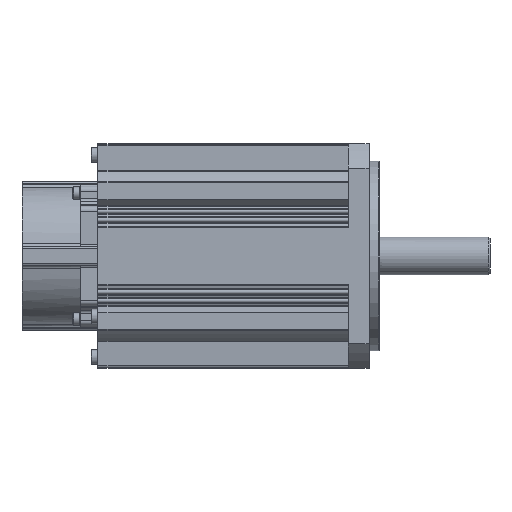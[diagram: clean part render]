
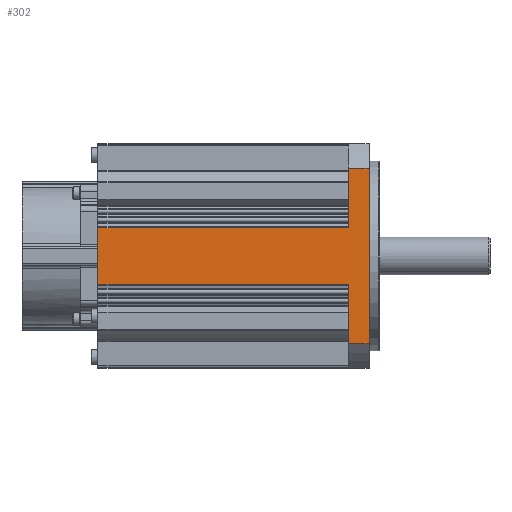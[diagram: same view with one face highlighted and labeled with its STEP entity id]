
A CAD part, front view. The second image highlights one B-rep face of the part: STEP entity #302.
In plain terms, the highlighted planar face has unit normal (0, -1, 0).
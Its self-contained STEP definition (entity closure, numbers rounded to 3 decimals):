
#302 = ADVANCED_FACE( '', ( #1106 ), #1107, .T. );
#1106 = FACE_OUTER_BOUND( '', #2325, .T. );
#1107 = PLANE( '', #2326 );
#2325 = EDGE_LOOP( '', ( #5103, #5104, #5105, #5106, #5107, #5108, #5109, #5110 ) );
#2326 = AXIS2_PLACEMENT_3D( '', #5111, #5112, #5113 );
#5103 = ORIENTED_EDGE( '', *, *, #7926, .F. );
#5104 = ORIENTED_EDGE( '', *, *, #8179, .T. );
#5105 = ORIENTED_EDGE( '', *, *, #8180, .F. );
#5106 = ORIENTED_EDGE( '', *, *, #8181, .F. );
#5107 = ORIENTED_EDGE( '', *, *, #7590, .F. );
#5108 = ORIENTED_EDGE( '', *, *, #7598, .T. );
#5109 = ORIENTED_EDGE( '', *, *, #8072, .T. );
#5110 = ORIENTED_EDGE( '', *, *, #7596, .F. );
#5111 = CARTESIAN_POINT( '', ( -157., -65., 50.806 ) );
#5112 = DIRECTION( '', ( 0., -1., 0. ) );
#5113 = DIRECTION( '', ( 0., 0., -1. ) );
#7590 = EDGE_CURVE( '', #9104, #9106, #9107, .T. );
#7596 = EDGE_CURVE( '', #9116, #9111, #9118, .T. );
#7598 = EDGE_CURVE( '', #9104, #9120, #9122, .T. );
#7926 = EDGE_CURVE( '', #9676, #9116, #9677, .T. );
#8072 = EDGE_CURVE( '', #9120, #9111, #9896, .T. );
#8179 = EDGE_CURVE( '', #9676, #10105, #10107, .T. );
#8180 = EDGE_CURVE( '', #10108, #10105, #10109, .T. );
#8181 = EDGE_CURVE( '', #9106, #10108, #10110, .T. );
#9104 = VERTEX_POINT( '', #11753 );
#9106 = VERTEX_POINT( '', #11755 );
#9107 = LINE( '', #11756, #11757 );
#9111 = VERTEX_POINT( '', #11761 );
#9116 = VERTEX_POINT( '', #11767 );
#9118 = LINE( '', #11769, #11770 );
#9120 = VERTEX_POINT( '', #11772 );
#9122 = LINE( '', #11774, #11775 );
#9676 = VERTEX_POINT( '', #12513 );
#9677 = LINE( '', #12514, #12515 );
#9896 = LINE( '', #12831, #12832 );
#10105 = VERTEX_POINT( '', #13100 );
#10107 = LINE( '', #13102, #13103 );
#10108 = VERTEX_POINT( '', #13104 );
#10109 = LINE( '', #13105, #13106 );
#10110 = LINE( '', #13107, #13108 );
#11753 = CARTESIAN_POINT( '', ( -12., -65., 16.424 ) );
#11755 = CARTESIAN_POINT( '', ( -12., -65., 50.806 ) );
#11756 = CARTESIAN_POINT( '', ( -12., -65., 50.806 ) );
#11757 = VECTOR( '', #14738, 1000. );
#11761 = CARTESIAN_POINT( '', ( -157., -65., -16.424 ) );
#11767 = CARTESIAN_POINT( '', ( -12., -65., -16.424 ) );
#11769 = CARTESIAN_POINT( '', ( -12., -65., -16.424 ) );
#11770 = VECTOR( '', #14752, 1000. );
#11772 = CARTESIAN_POINT( '', ( -157., -65., 16.424 ) );
#11774 = CARTESIAN_POINT( '', ( -12., -65., 16.424 ) );
#11775 = VECTOR( '', #14756, 1000. );
#12513 = CARTESIAN_POINT( '', ( -12., -65., -50.806 ) );
#12514 = CARTESIAN_POINT( '', ( -12., -65., 50.806 ) );
#12515 = VECTOR( '', #15370, 1000. );
#12831 = CARTESIAN_POINT( '', ( -157., -65., 50.806 ) );
#12832 = VECTOR( '', #15612, 1000. );
#13100 = CARTESIAN_POINT( '', ( 0., -65., -50.806 ) );
#13102 = CARTESIAN_POINT( '', ( -157., -65., -50.806 ) );
#13103 = VECTOR( '', #15813, 1000. );
#13104 = CARTESIAN_POINT( '', ( 0., -65., 50.806 ) );
#13105 = CARTESIAN_POINT( '', ( 0., -65., 50.806 ) );
#13106 = VECTOR( '', #15814, 1000. );
#13107 = CARTESIAN_POINT( '', ( -157., -65., 50.806 ) );
#13108 = VECTOR( '', #15815, 1000. );
#14738 = DIRECTION( '', ( 0., 0., 1. ) );
#14752 = DIRECTION( '', ( -1., 0., 0. ) );
#14756 = DIRECTION( '', ( -1., 0., 0. ) );
#15370 = DIRECTION( '', ( 0., 0., 1. ) );
#15612 = DIRECTION( '', ( 0., 0., -1. ) );
#15813 = DIRECTION( '', ( 1., 0., 0. ) );
#15814 = DIRECTION( '', ( 0., 0., -1. ) );
#15815 = DIRECTION( '', ( 1., 0., 0. ) );
